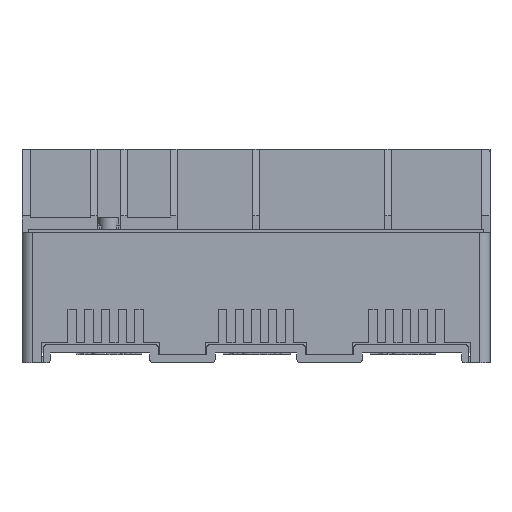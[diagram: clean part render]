
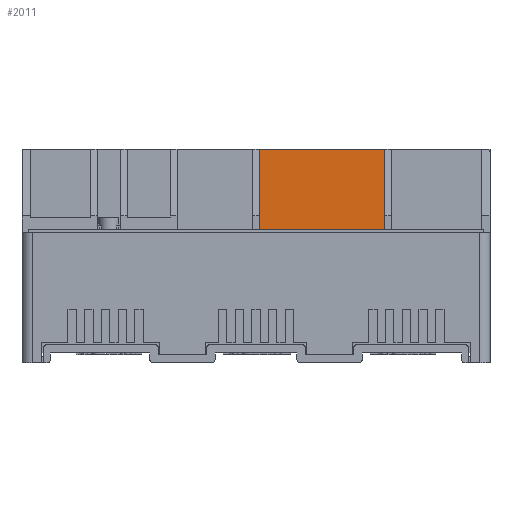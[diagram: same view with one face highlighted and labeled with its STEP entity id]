
A CAD part, front view. The second image highlights one B-rep face of the part: STEP entity #2011.
In plain terms, the highlighted planar face has unit normal (0, -1, 0).
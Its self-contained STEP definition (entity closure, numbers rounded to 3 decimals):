
#2011 = ADVANCED_FACE ( 'NONE', ( #4628 ), #57517, .F. ) ;
#3947 = CARTESIAN_POINT ( 'NONE',  ( 76.803, -92.28, 222.452 ) ) ;
#4628 = FACE_OUTER_BOUND ( 'NONE', #11554, .T. ) ;
#5741 = CARTESIAN_POINT ( 'NONE',  ( 105.803, -92.28, 289. ) ) ;
#5938 = CARTESIAN_POINT ( 'NONE',  ( 76.803, -92.28, 265. ) ) ;
#7411 = EDGE_CURVE ( 'NONE', #53156, #73316, #40055, .T. ) ;
#9550 = VERTEX_POINT ( 'NONE', #10391 ) ;
#10391 = CARTESIAN_POINT ( 'NONE',  ( 39.303, -92.28, 289. ) ) ;
#11554 = EDGE_LOOP ( 'NONE', ( #29166, #44624, #43695, #32008 ) ) ;
#19603 = LINE ( 'NONE', #5741, #56001 ) ;
#23104 = DIRECTION ( 'NONE',  ( -1., 0., 0. ) ) ;
#23495 = DIRECTION ( 'NONE',  ( -1., 0., 0. ) ) ;
#25581 = CARTESIAN_POINT ( 'NONE',  ( 39.303, -92.28, 222.452 ) ) ;
#26487 = EDGE_CURVE ( 'NONE', #33251, #9550, #19603, .T. ) ;
#29166 = ORIENTED_EDGE ( 'NONE', *, *, #7411, .F. ) ;
#31569 = CARTESIAN_POINT ( 'NONE',  ( 105.803, -92.28, 265. ) ) ;
#32008 = ORIENTED_EDGE ( 'NONE', *, *, #70766, .F. ) ;
#33251 = VERTEX_POINT ( 'NONE', #52519 ) ;
#34549 = VECTOR ( 'NONE', #72159, 1000. ) ;
#35177 = CARTESIAN_POINT ( 'NONE',  ( 105.803, -92.28, 127.265 ) ) ;
#39746 = LINE ( 'NONE', #25581, #45932 ) ;
#40055 = LINE ( 'NONE', #31569, #41806 ) ;
#41806 = VECTOR ( 'NONE', #53890, 1000. ) ;
#43695 = ORIENTED_EDGE ( 'NONE', *, *, #26487, .T. ) ;
#44624 = ORIENTED_EDGE ( 'NONE', *, *, #57208, .T. ) ;
#45932 = VECTOR ( 'NONE', #70718, 1000. ) ;
#49594 = LINE ( 'NONE', #3947, #34549 ) ;
#52519 = CARTESIAN_POINT ( 'NONE',  ( 76.803, -92.28, 289. ) ) ;
#53156 = VERTEX_POINT ( 'NONE', #5938 ) ;
#53890 = DIRECTION ( 'NONE',  ( -1., 0., 0. ) ) ;
#56001 = VECTOR ( 'NONE', #23104, 1000. ) ;
#57208 = EDGE_CURVE ( 'NONE', #53156, #33251, #49594, .T. ) ;
#57517 = PLANE ( 'NONE',  #57962 ) ;
#57962 = AXIS2_PLACEMENT_3D ( 'NONE', #35177, #63695, #23495 ) ;
#63695 = DIRECTION ( 'NONE',  ( 0., 1., 0. ) ) ;
#63768 = CARTESIAN_POINT ( 'NONE',  ( 39.303, -92.28, 265. ) ) ;
#70718 = DIRECTION ( 'NONE',  ( 0., 0., 1. ) ) ;
#70766 = EDGE_CURVE ( 'NONE', #73316, #9550, #39746, .T. ) ;
#72159 = DIRECTION ( 'NONE',  ( 0., 0., 1. ) ) ;
#73316 = VERTEX_POINT ( 'NONE', #63768 ) ;
